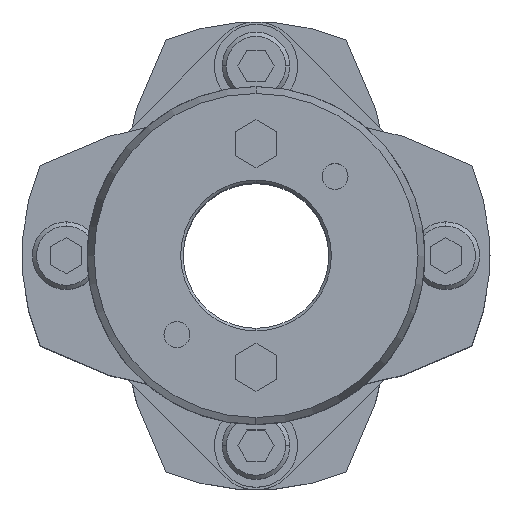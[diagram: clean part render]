
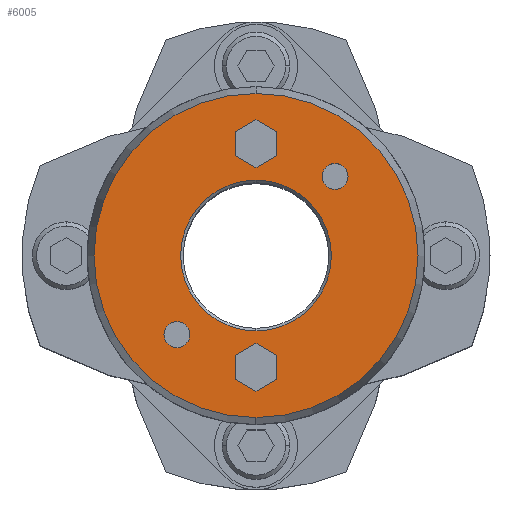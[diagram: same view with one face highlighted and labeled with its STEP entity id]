
A CAD part, top view. The second image highlights one B-rep face of the part: STEP entity #6005.
In plain terms, the highlighted planar face has unit normal (0, 0, 1).
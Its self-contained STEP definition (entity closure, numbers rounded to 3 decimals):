
#1677=CARTESIAN_POINT('',(0.,14.5,52.0));
#1678=VERTEX_POINT('',#1677);
#1694=CARTESIAN_POINT('',(0.,-14.5,52.0));
#1695=VERTEX_POINT('',#1694);
#1702=CARTESIAN_POINT('',(0.,0.,52.0));
#1703=DIRECTION('',(0.0,0.0,1.0));
#1704=DIRECTION('',(0.0,1.0,0.0));
#1705=AXIS2_PLACEMENT_3D('',#1702,#1703,#1704);
#1706=CIRCLE('',#1705,14.5);
#1707=EDGE_CURVE('',#1695,#1678,#1706,.T.);
#1823=CARTESIAN_POINT('',(0.,-31.16,52.0));
#1824=VERTEX_POINT('',#1823);
#1833=CARTESIAN_POINT('',(0.,31.16,52.0));
#1834=VERTEX_POINT('',#1833);
#1835=CARTESIAN_POINT('',(0.,0.,52.0));
#1836=DIRECTION('',(0.0,0.0,-1.0));
#1837=DIRECTION('',(0.0,-1.0,0.0));
#1838=AXIS2_PLACEMENT_3D('',#1835,#1836,#1837);
#1839=CIRCLE('',#1838,31.16);
#1840=EDGE_CURVE('',#1824,#1834,#1839,.T.);
#2157=CARTESIAN_POINT('',(15.203,17.703,52.0));
#2158=VERTEX_POINT('',#2157);
#2174=CARTESIAN_POINT('',(15.203,12.703,52.0));
#2175=VERTEX_POINT('',#2174);
#2182=CARTESIAN_POINT('',(15.203,15.203,52.0));
#2183=DIRECTION('',(0.0,0.0,-1.0));
#2184=DIRECTION('',(0.0,1.0,0.0));
#2185=AXIS2_PLACEMENT_3D('',#2182,#2183,#2184);
#2186=CIRCLE('',#2185,2.5);
#2187=EDGE_CURVE('',#2158,#2175,#2186,.T.);
#2199=CARTESIAN_POINT('',(-15.203,-12.703,52.0));
#2200=VERTEX_POINT('',#2199);
#2216=CARTESIAN_POINT('',(-15.203,-17.703,52.0));
#2217=VERTEX_POINT('',#2216);
#2224=CARTESIAN_POINT('',(-15.203,-15.203,52.0));
#2225=DIRECTION('',(0.0,0.0,-1.0));
#2226=DIRECTION('',(0.0,1.0,0.0));
#2227=AXIS2_PLACEMENT_3D('',#2224,#2225,#2226);
#2228=CIRCLE('',#2227,2.5);
#2229=EDGE_CURVE('',#2200,#2217,#2228,.T.);
#4611=CARTESIAN_POINT('',(0.,-16.881,52.0));
#4612=VERTEX_POINT('',#4611);
#4619=CARTESIAN_POINT('',(-4.,-19.191,52.0));
#4620=VERTEX_POINT('',#4619);
#4621=CARTESIAN_POINT('',(-4.,-19.191,52.0));
#4622=DIRECTION('',(0.866,0.5,0.0));
#4623=VECTOR('',#4622,4.619);
#4624=LINE('',#4621,#4623);
#4625=EDGE_CURVE('',#4620,#4612,#4624,.T.);
#4649=CARTESIAN_POINT('',(4.,-19.191,52.0));
#4650=VERTEX_POINT('',#4649);
#4657=CARTESIAN_POINT('',(0.,-16.881,52.0));
#4658=DIRECTION('',(0.866,-0.5,0.0));
#4659=VECTOR('',#4658,4.619);
#4660=LINE('',#4657,#4659);
#4661=EDGE_CURVE('',#4612,#4650,#4660,.T.);
#4680=CARTESIAN_POINT('',(4.,-23.809,52.0));
#4681=VERTEX_POINT('',#4680);
#4688=CARTESIAN_POINT('',(4.,-19.191,52.0));
#4689=DIRECTION('',(0.0,-1.0,0.0));
#4690=VECTOR('',#4689,4.619);
#4691=LINE('',#4688,#4690);
#4692=EDGE_CURVE('',#4650,#4681,#4691,.T.);
#4711=CARTESIAN_POINT('',(0.,-26.119,52.0));
#4712=VERTEX_POINT('',#4711);
#4719=CARTESIAN_POINT('',(4.,-23.809,52.0));
#4720=DIRECTION('',(-0.866,-0.5,0.0));
#4721=VECTOR('',#4720,4.619);
#4722=LINE('',#4719,#4721);
#4723=EDGE_CURVE('',#4681,#4712,#4722,.T.);
#4742=CARTESIAN_POINT('',(-4.,-23.809,52.0));
#4743=VERTEX_POINT('',#4742);
#4750=CARTESIAN_POINT('',(0.,-26.119,52.0));
#4751=DIRECTION('',(-0.866,0.5,0.0));
#4752=VECTOR('',#4751,4.619);
#4753=LINE('',#4750,#4752);
#4754=EDGE_CURVE('',#4712,#4743,#4753,.T.);
#4772=CARTESIAN_POINT('',(-4.,-23.809,52.0));
#4773=DIRECTION('',(0.0,1.0,0.0));
#4774=VECTOR('',#4773,4.619);
#4775=LINE('',#4772,#4774);
#4776=EDGE_CURVE('',#4743,#4620,#4775,.T.);
#4811=CARTESIAN_POINT('',(0.,26.119,52.0));
#4812=VERTEX_POINT('',#4811);
#4819=CARTESIAN_POINT('',(-4.,23.809,52.0));
#4820=VERTEX_POINT('',#4819);
#4821=CARTESIAN_POINT('',(-4.,23.809,52.0));
#4822=DIRECTION('',(0.866,0.5,0.0));
#4823=VECTOR('',#4822,4.619);
#4824=LINE('',#4821,#4823);
#4825=EDGE_CURVE('',#4820,#4812,#4824,.T.);
#4849=CARTESIAN_POINT('',(4.,23.809,52.0));
#4850=VERTEX_POINT('',#4849);
#4857=CARTESIAN_POINT('',(0.,26.119,52.0));
#4858=DIRECTION('',(0.866,-0.5,0.0));
#4859=VECTOR('',#4858,4.619);
#4860=LINE('',#4857,#4859);
#4861=EDGE_CURVE('',#4812,#4850,#4860,.T.);
#4880=CARTESIAN_POINT('',(4.,19.191,52.0));
#4881=VERTEX_POINT('',#4880);
#4888=CARTESIAN_POINT('',(4.,23.809,52.0));
#4889=DIRECTION('',(0.0,-1.0,0.0));
#4890=VECTOR('',#4889,4.619);
#4891=LINE('',#4888,#4890);
#4892=EDGE_CURVE('',#4850,#4881,#4891,.T.);
#4911=CARTESIAN_POINT('',(0.,16.881,52.0));
#4912=VERTEX_POINT('',#4911);
#4919=CARTESIAN_POINT('',(4.,19.191,52.0));
#4920=DIRECTION('',(-0.866,-0.5,0.0));
#4921=VECTOR('',#4920,4.619);
#4922=LINE('',#4919,#4921);
#4923=EDGE_CURVE('',#4881,#4912,#4922,.T.);
#4942=CARTESIAN_POINT('',(-4.,19.191,52.0));
#4943=VERTEX_POINT('',#4942);
#4950=CARTESIAN_POINT('',(0.,16.881,52.0));
#4951=DIRECTION('',(-0.866,0.5,0.0));
#4952=VECTOR('',#4951,4.619);
#4953=LINE('',#4950,#4952);
#4954=EDGE_CURVE('',#4912,#4943,#4953,.T.);
#4972=CARTESIAN_POINT('',(-4.,19.191,52.0));
#4973=DIRECTION('',(0.0,1.0,0.0));
#4974=VECTOR('',#4973,4.619);
#4975=LINE('',#4972,#4974);
#4976=EDGE_CURVE('',#4943,#4820,#4975,.T.);
#5002=CARTESIAN_POINT('',(-15.203,-15.203,52.0));
#5003=DIRECTION('',(0.0,0.0,-1.0));
#5004=DIRECTION('',(0.0,1.0,0.0));
#5005=AXIS2_PLACEMENT_3D('',#5002,#5003,#5004);
#5006=CIRCLE('',#5005,2.5);
#5007=EDGE_CURVE('',#2217,#2200,#5006,.T.);
#5036=CARTESIAN_POINT('',(15.203,15.203,52.0));
#5037=DIRECTION('',(0.0,0.0,-1.0));
#5038=DIRECTION('',(0.0,1.0,0.0));
#5039=AXIS2_PLACEMENT_3D('',#5036,#5037,#5038);
#5040=CIRCLE('',#5039,2.5);
#5041=EDGE_CURVE('',#2175,#2158,#5040,.T.);
#5952=CARTESIAN_POINT('',(0.,0.,52.0));
#5953=DIRECTION('',(0.0,0.0,-1.0));
#5954=DIRECTION('',(0.0,-1.0,0.0));
#5955=AXIS2_PLACEMENT_3D('',#5952,#5953,#5954);
#5956=CIRCLE('',#5955,31.16);
#5957=EDGE_CURVE('',#1834,#1824,#5956,.T.);
#5962=CARTESIAN_POINT('',(0.,2.682,52.0));
#5963=DIRECTION('',(0.0,0.0,1.0));
#5964=DIRECTION('',(0.0,1.0,0.0));
#5965=AXIS2_PLACEMENT_3D('',#5962,#5963,#5964);
#5966=PLANE('',#5965);
#5967=ORIENTED_EDGE('',*,*,#5957,.F.);
#5968=ORIENTED_EDGE('',*,*,#1840,.F.);
#5969=EDGE_LOOP('',(#5967,#5968));
#5970=FACE_OUTER_BOUND('',#5969,.T.);
#5971=ORIENTED_EDGE('',*,*,#4625,.T.);
#5972=ORIENTED_EDGE('',*,*,#4661,.T.);
#5973=ORIENTED_EDGE('',*,*,#4692,.T.);
#5974=ORIENTED_EDGE('',*,*,#4723,.T.);
#5975=ORIENTED_EDGE('',*,*,#4754,.T.);
#5976=ORIENTED_EDGE('',*,*,#4776,.T.);
#5977=EDGE_LOOP('',(#5971,#5972,#5973,#5974,#5975,#5976));
#5978=FACE_BOUND('',#5977,.T.);
#5979=ORIENTED_EDGE('',*,*,#4825,.T.);
#5980=ORIENTED_EDGE('',*,*,#4861,.T.);
#5981=ORIENTED_EDGE('',*,*,#4892,.T.);
#5982=ORIENTED_EDGE('',*,*,#4923,.T.);
#5983=ORIENTED_EDGE('',*,*,#4954,.T.);
#5984=ORIENTED_EDGE('',*,*,#4976,.T.);
#5985=EDGE_LOOP('',(#5979,#5980,#5981,#5982,#5983,#5984));
#5986=FACE_BOUND('',#5985,.T.);
#5987=ORIENTED_EDGE('',*,*,#2229,.T.);
#5988=ORIENTED_EDGE('',*,*,#5007,.T.);
#5989=EDGE_LOOP('',(#5987,#5988));
#5990=FACE_BOUND('',#5989,.T.);
#5991=ORIENTED_EDGE('',*,*,#2187,.T.);
#5992=ORIENTED_EDGE('',*,*,#5041,.T.);
#5993=EDGE_LOOP('',(#5991,#5992));
#5994=FACE_BOUND('',#5993,.T.);
#5995=ORIENTED_EDGE('',*,*,#1707,.F.);
#5996=CARTESIAN_POINT('',(0.,0.,52.0));
#5997=DIRECTION('',(0.0,0.0,1.0));
#5998=DIRECTION('',(0.0,1.0,0.0));
#5999=AXIS2_PLACEMENT_3D('',#5996,#5997,#5998);
#6000=CIRCLE('',#5999,14.5);
#6001=EDGE_CURVE('',#1678,#1695,#6000,.T.);
#6002=ORIENTED_EDGE('',*,*,#6001,.F.);
#6003=EDGE_LOOP('',(#5995,#6002));
#6004=FACE_BOUND('',#6003,.T.);
#6005=ADVANCED_FACE('',(#5970,#5978,#5986,#5990,#5994,#6004),#5966,.T.);
